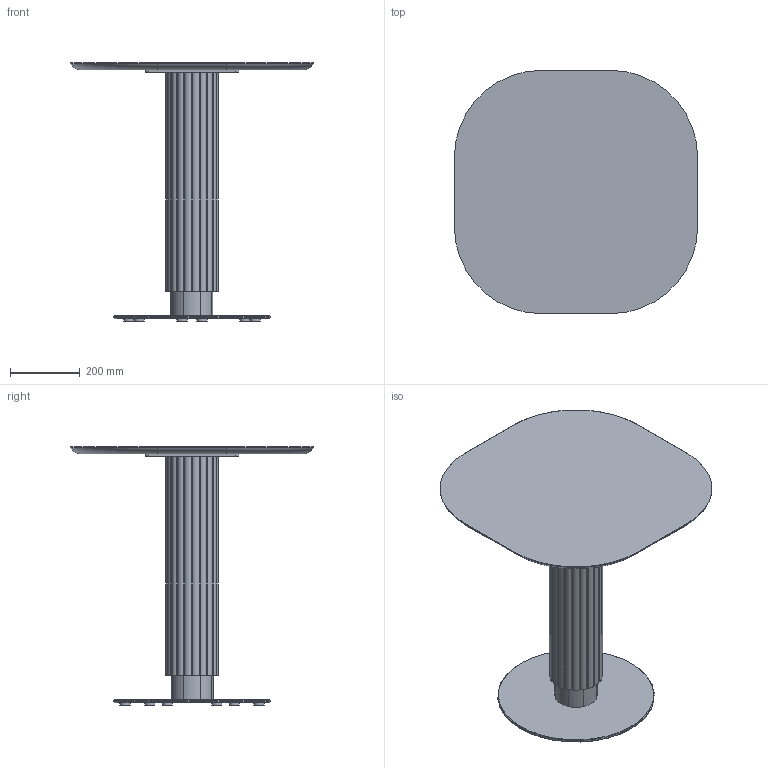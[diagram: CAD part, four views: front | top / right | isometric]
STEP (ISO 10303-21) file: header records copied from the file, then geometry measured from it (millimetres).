
FILE_DESCRIPTION( ('This file contains a STEP AP42 implementation' ,'as created by ZW3D STEP Interface translator.') ,'2;1' );
FILE_NAME( 'Godron - B_Rond - F2 - M3 - 700 x 700 x 750.stp' ,'24 912.12 315', (''), ('ZWCAD Software Co.'), 'Version 1.0', 'ZW3D to STEP translator', '' );
FILE_SCHEMA(('AUTOMOTIVE_DESIGN { 1 0 10303 214 1 1 1 1 }'));
Length unit declared in the file: millimetre
Products named in the file (15): 0; PIED BISTROT PARAMETRIQUE_; SOCLE ACIER C Ø450 V.02_; SCL-D450-02_; PLA-R30A-01_; PLA-R30A-01; CROIX ACIER 370 V.02_; CRX-X370-02_; COLONNE ACIER Ø48.5 V.02_; TUB-D048-02_; PLA-R48A-01_; Colonne GODRON H700_; WUERTH 0276063020 Euro-screw 6.3x2 Verzinkt_; PLATEAU BISTROT PARAMETRIQUE_; insert_m6_13_
Assembly tree (25 placements, depth 3):
  0
  PIED BISTROT PARAMETRIQUE_
    SOCLE ACIER C Ø450 V.02_
      SCL-D450-02_
      PLA-R30A-01_
      PLA-R30A-01  x5
    CROIX ACIER 370 V.02_
      CRX-X370-02_
    COLONNE ACIER Ø48.5 V.02_
      TUB-D048-02_
      PLA-R48A-01_  x2
    Colonne GODRON H700_
    WUERTH 0276063020 Euro-screw 6.3x2 Verzinkt_
    PLATEAU BISTROT PARAMETRIQUE_
      insert_m6_13_  x8
Bounding box: 700 x 700 x 744 mm (x, y, z)
Volume: 20707613.4 mm3; surface area: 2642826.7 mm2
Topology: 29 solids, 29 shells, 648 faces, 1609 edges, 1034 vertices
Faces by surface type: plane 286, cylinder 197, bspline 121, cone 39, torus 5
Full cylindrical faces by diameter (mm): 4.88 x1, 6 x8, 6.3 x1, 8 x47, 12 x2, 14 x2, 30 x6, 44.5 x3, 48.5 x1, 450 x1
Entity records: 16038 total; most frequent: CARTESIAN_POINT 4007, DIRECTION 2221, ORIENTED_EDGE 2208, EDGE_CURVE 1104, AXIS2_PLACEMENT_3D 796, VERTEX_POINT 720, VECTOR 629, LINE 629
